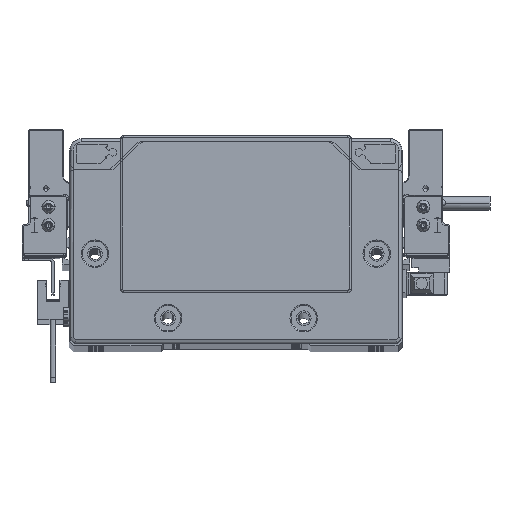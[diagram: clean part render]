
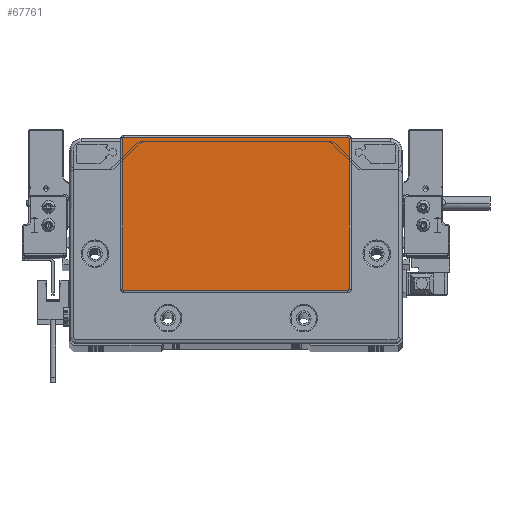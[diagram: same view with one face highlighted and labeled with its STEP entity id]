
A CAD part, top view. The second image highlights one B-rep face of the part: STEP entity #67761.
In plain terms, the highlighted planar face has unit normal (0, 0, 1) as drawn and (0, 0, -1) by its records, which use the part's own axes.
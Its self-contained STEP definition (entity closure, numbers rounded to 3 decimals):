
#1232 = CARTESIAN_POINT ( 'NONE',  ( -48.75, 43.8, -2. ) ) ;
#1517 = CARTESIAN_POINT ( 'NONE',  ( 0., 0., -2. ) ) ;
#2264 = DIRECTION ( 'NONE',  ( 0., 0., -1. ) ) ;
#10525 = AXIS2_PLACEMENT_3D ( 'NONE', #17159, #96029, #33240 ) ;
#10924 = VERTEX_POINT ( 'NONE', #38993 ) ;
#11597 = EDGE_CURVE ( 'NONE', #93570, #10924, #21493, .T. ) ;
#12832 = EDGE_CURVE ( 'NONE', #43402, #19975, #29327, .T. ) ;
#15088 = DIRECTION ( 'NONE',  ( 0., 0., -1. ) ) ;
#16011 = EDGE_LOOP ( 'NONE', ( #57053, #96536, #51279, #87238, #50693, #25250, #36843, #66795 ) ) ;
#17159 = CARTESIAN_POINT ( 'NONE',  ( 48.75, -21.8, -2. ) ) ;
#17924 = EDGE_CURVE ( 'NONE', #35117, #43402, #53177, .T. ) ;
#19975 = VERTEX_POINT ( 'NONE', #67928 ) ;
#21493 = LINE ( 'NONE', #53184, #90463 ) ;
#22769 = DIRECTION ( 'NONE',  ( 0., 0., -1. ) ) ;
#24029 = CARTESIAN_POINT ( 'NONE',  ( 49.25, 43.8, -2. ) ) ;
#24573 = CIRCLE ( 'NONE', #54399, 0.5 ) ;
#25250 = ORIENTED_EDGE ( 'NONE', *, *, #65179, .T. ) ;
#26618 = CARTESIAN_POINT ( 'NONE',  ( 48.75, 44.3, -2. ) ) ;
#26726 = AXIS2_PLACEMENT_3D ( 'NONE', #79009, #15088, #31195 ) ;
#27002 = AXIS2_PLACEMENT_3D ( 'NONE', #1232, #2264, #64642 ) ;
#28269 = LINE ( 'NONE', #77074, #50669 ) ;
#28892 = PLANE ( 'NONE',  #77380 ) ;
#29327 = LINE ( 'NONE', #92633, #35651 ) ;
#31195 = DIRECTION ( 'NONE',  ( -1., 0., 0. ) ) ;
#32908 = EDGE_CURVE ( 'NONE', #63521, #35117, #34626, .T. ) ;
#33240 = DIRECTION ( 'NONE',  ( -1., 0., 0. ) ) ;
#34626 = LINE ( 'NONE', #41888, #37074 ) ;
#35117 = VERTEX_POINT ( 'NONE', #87141 ) ;
#35651 = VECTOR ( 'NONE', #101943, 1000. ) ;
#35843 = EDGE_CURVE ( 'NONE', #43804, #85741, #28269, .T. ) ;
#36843 = ORIENTED_EDGE ( 'NONE', *, *, #35843, .T. ) ;
#37074 = VECTOR ( 'NONE', #72055, 1000. ) ;
#38544 = CIRCLE ( 'NONE', #27002, 0.5 ) ;
#38993 = CARTESIAN_POINT ( 'NONE',  ( 49.25, -21.8, -2. ) ) ;
#41888 = CARTESIAN_POINT ( 'NONE',  ( -48.75, -22.3, -2. ) ) ;
#43402 = VERTEX_POINT ( 'NONE', #71768 ) ;
#43804 = VERTEX_POINT ( 'NONE', #70320 ) ;
#49854 = DIRECTION ( 'NONE',  ( -1., 0., 0. ) ) ;
#50669 = VECTOR ( 'NONE', #52161, 1000. ) ;
#50693 = ORIENTED_EDGE ( 'NONE', *, *, #12832, .T. ) ;
#51279 = ORIENTED_EDGE ( 'NONE', *, *, #32908, .T. ) ;
#52161 = DIRECTION ( 'NONE',  ( 1., 0., 0. ) ) ;
#53177 = CIRCLE ( 'NONE', #26726, 0.5 ) ;
#53184 = CARTESIAN_POINT ( 'NONE',  ( 49.25, -21.8, -2. ) ) ;
#53712 = DIRECTION ( 'NONE',  ( 0., -1., 0. ) ) ;
#54399 = AXIS2_PLACEMENT_3D ( 'NONE', #79895, #22769, #63801 ) ;
#57053 = ORIENTED_EDGE ( 'NONE', *, *, #11597, .T. ) ;
#63521 = VERTEX_POINT ( 'NONE', #78288 ) ;
#63801 = DIRECTION ( 'NONE',  ( -1., 0., 0. ) ) ;
#64642 = DIRECTION ( 'NONE',  ( -1., 0., 0. ) ) ;
#65179 = EDGE_CURVE ( 'NONE', #19975, #43804, #38544, .T. ) ;
#66795 = ORIENTED_EDGE ( 'NONE', *, *, #68961, .T. ) ;
#67761 = ADVANCED_FACE ( 'NONE', ( #81037 ), #28892, .T. ) ;
#67928 = CARTESIAN_POINT ( 'NONE',  ( -49.25, 43.8, -2. ) ) ;
#68680 = CIRCLE ( 'NONE', #10525, 0.5 ) ;
#68961 = EDGE_CURVE ( 'NONE', #85741, #93570, #24573, .T. ) ;
#70320 = CARTESIAN_POINT ( 'NONE',  ( -48.75, 44.3, -2. ) ) ;
#71768 = CARTESIAN_POINT ( 'NONE',  ( -49.25, -21.8, -2. ) ) ;
#72055 = DIRECTION ( 'NONE',  ( -1., 0., 0. ) ) ;
#72726 = DIRECTION ( 'NONE',  ( 0., 0., -1. ) ) ;
#76780 = EDGE_CURVE ( 'NONE', #10924, #63521, #68680, .T. ) ;
#77074 = CARTESIAN_POINT ( 'NONE',  ( 48.75, 44.3, -2. ) ) ;
#77380 = AXIS2_PLACEMENT_3D ( 'NONE', #1517, #72726, #49854 ) ;
#78288 = CARTESIAN_POINT ( 'NONE',  ( 48.75, -22.3, -2. ) ) ;
#79009 = CARTESIAN_POINT ( 'NONE',  ( -48.75, -21.8, -2. ) ) ;
#79895 = CARTESIAN_POINT ( 'NONE',  ( 48.75, 43.8, -2. ) ) ;
#81037 = FACE_OUTER_BOUND ( 'NONE', #16011, .T. ) ;
#85741 = VERTEX_POINT ( 'NONE', #26618 ) ;
#87141 = CARTESIAN_POINT ( 'NONE',  ( -48.75, -22.3, -2. ) ) ;
#87238 = ORIENTED_EDGE ( 'NONE', *, *, #17924, .T. ) ;
#90463 = VECTOR ( 'NONE', #53712, 1000. ) ;
#92633 = CARTESIAN_POINT ( 'NONE',  ( -49.25, 43.8, -2. ) ) ;
#93570 = VERTEX_POINT ( 'NONE', #24029 ) ;
#96029 = DIRECTION ( 'NONE',  ( 0., 0., -1. ) ) ;
#96536 = ORIENTED_EDGE ( 'NONE', *, *, #76780, .T. ) ;
#101943 = DIRECTION ( 'NONE',  ( 0., 1., 0. ) ) ;
